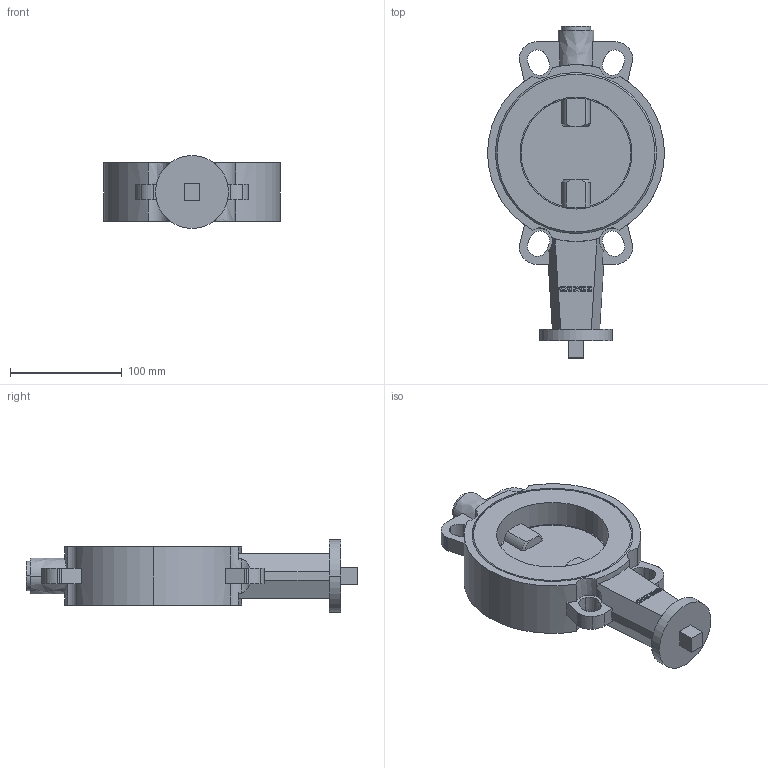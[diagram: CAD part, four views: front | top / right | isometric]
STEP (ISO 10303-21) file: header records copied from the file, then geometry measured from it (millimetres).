
FILE_DESCRIPTION((''),'2;1');
FILE_NAME('KL000014.dwg.stp','2006-10-04T11:30:44',(''),(''),'Mechanical Desktop 2006','Mechanical Desktop 2006',', , ');
FILE_SCHEMA(('AUTOMOTIVE_DESIGN { 1 2 10303 214 0 1 1 1 }'));
Length unit declared in the file: millimetre
Products named in the file (1): Product
Bounding box: 158 x 296.5 x 65 mm (x, y, z)
Volume: 898493.5 mm3; surface area: 182979.5 mm2
Topology: 21 solids, 21 shells, 476 faces, 1295 edges, 862 vertices
Faces by surface type: cylinder 221, plane 190, bspline 45, cone 16, sphere 4
Entity records: 15660 total; most frequent: CARTESIAN_POINT 3227, DIRECTION 2675, ORIENTED_EDGE 2590, EDGE_CURVE 1295, AXIS2_PLACEMENT_3D 974, VERTEX_POINT 862, VECTOR 727, LINE 727
